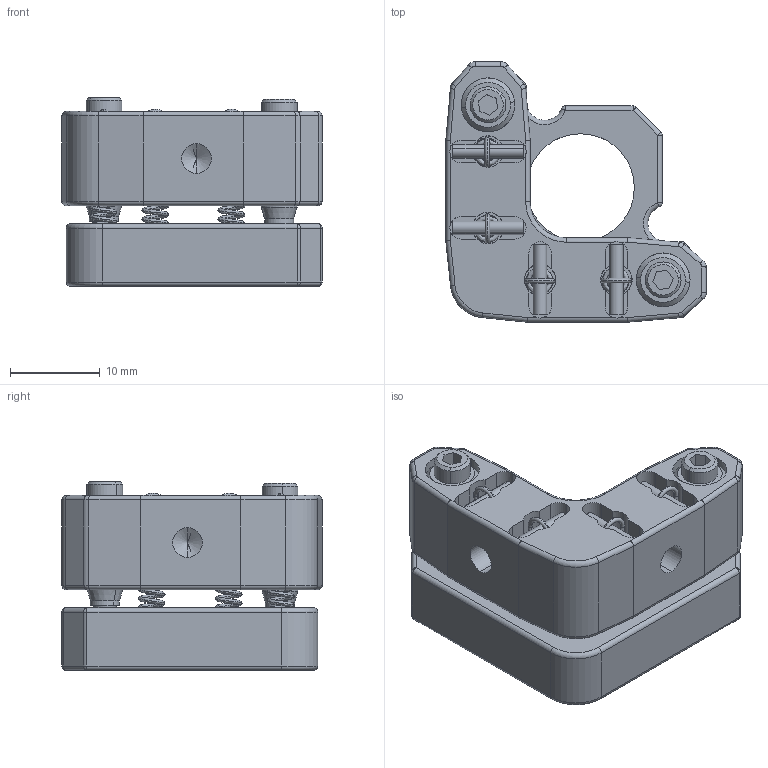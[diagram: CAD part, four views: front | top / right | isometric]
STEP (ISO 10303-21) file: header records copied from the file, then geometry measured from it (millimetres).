
FILE_DESCRIPTION (( 'STEP AP203' ), '1' );
FILE_NAME ('M-TMSO-05R-HEX.STEP', '2020-04-30T08:05:32', ( '匠星' ), ( '' ), 'SwSTEP 2.0', 'SolidWorks 2019', '' );
FILE_SCHEMA (( 'CONFIG_CONTROL_DESIGN' ));
Length unit declared in the file: millimetre
Products named in the file (2): M-TMSO-05R-HEX
Bounding box: 29 x 29 x 21.05 mm (x, y, z)
Volume: 7108 mm3; surface area: 6187.7 mm2
Topology: 10 solids, 12 shells, 512 faces, 1248 edges, 759 vertices
Faces by surface type: cylinder 217, plane 163, torus 54, cone 40, sphere 30, bspline 8
Entity records: 28209 total; most frequent: CARTESIAN_POINT 15963, DIRECTION 2670, ORIENTED_EDGE 2456, EDGE_CURVE 1228, AXIS2_PLACEMENT_3D 1063, VERTEX_POINT 759, EDGE_LOOP 565, CIRCLE 557
